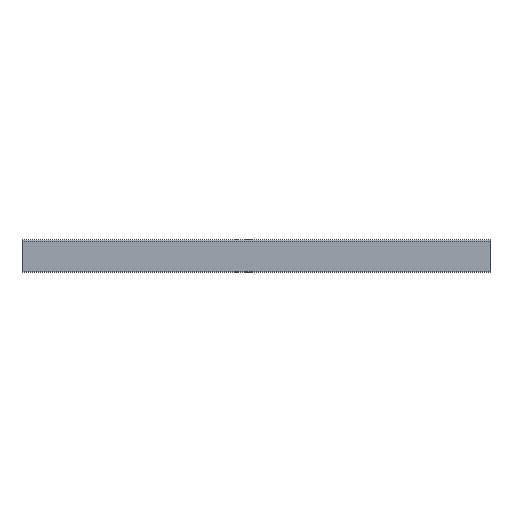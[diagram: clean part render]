
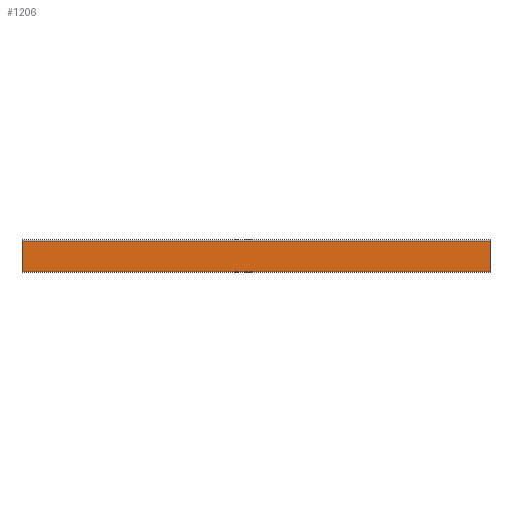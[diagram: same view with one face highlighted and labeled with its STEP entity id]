
A CAD part, left-side view. The second image highlights one B-rep face of the part: STEP entity #1206.
In plain terms, the highlighted planar face has unit normal (-1, 0, 0).
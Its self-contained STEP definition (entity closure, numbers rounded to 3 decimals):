
#132=ORIENTED_EDGE('',*,*,#504,.F.);
#133=ORIENTED_EDGE('',*,*,#505,.T.);
#134=ORIENTED_EDGE('',*,*,#506,.T.);
#135=ORIENTED_EDGE('',*,*,#507,.T.);
#504=EDGE_CURVE('',#690,#691,#814,.T.);
#505=EDGE_CURVE('',#690,#692,#815,.T.);
#506=EDGE_CURVE('',#692,#693,#816,.T.);
#507=EDGE_CURVE('',#693,#691,#817,.F.);
#690=VERTEX_POINT('',#1826);
#691=VERTEX_POINT('',#1827);
#692=VERTEX_POINT('',#1829);
#693=VERTEX_POINT('',#1831);
#814=LINE('',#1825,#936);
#815=LINE('',#1828,#937);
#816=LINE('',#1830,#938);
#817=LINE('',#1832,#939);
#936=VECTOR('',#1435,1000.);
#937=VECTOR('',#1436,1000.);
#938=VECTOR('',#1437,1000.);
#939=VECTOR('',#1438,1000.);
#1046=EDGE_LOOP('',(#132,#133,#134,#135));
#1110=FACE_BOUND('',#1046,.T.);
#1174=PLANE('',#1283);
#1206=ADVANCED_FACE('',(#1110),#1174,.F.);
#1283=AXIS2_PLACEMENT_3D('',#1824,#1433,#1434);
#1433=DIRECTION('',(1.,0.,0.));
#1434=DIRECTION('',(0.,0.,-1.));
#1435=DIRECTION('',(0.,0.,-1.));
#1436=DIRECTION('',(0.,1.,0.));
#1437=DIRECTION('',(0.,0.,-1.));
#1438=DIRECTION('',(0.,1.,0.));
#1824=CARTESIAN_POINT('',(-10.75,-142.,14.2));
#1825=CARTESIAN_POINT('',(-10.75,-142.,14.2));
#1826=CARTESIAN_POINT('',(-10.75,-142.,13.4));
#1827=CARTESIAN_POINT('',(-10.75,-142.,-5.2));
#1828=CARTESIAN_POINT('',(-10.75,-142.,13.4));
#1829=CARTESIAN_POINT('',(-10.75,142.,13.4));
#1830=CARTESIAN_POINT('',(-10.75,142.,14.2));
#1831=CARTESIAN_POINT('',(-10.75,142.,-5.2));
#1832=CARTESIAN_POINT('',(-10.75,-142.,-5.2));
